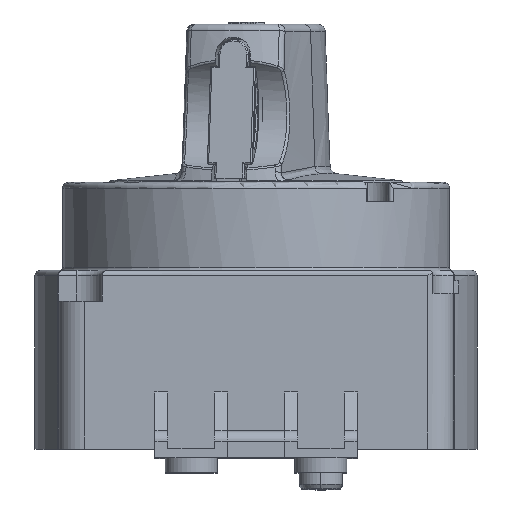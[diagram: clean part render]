
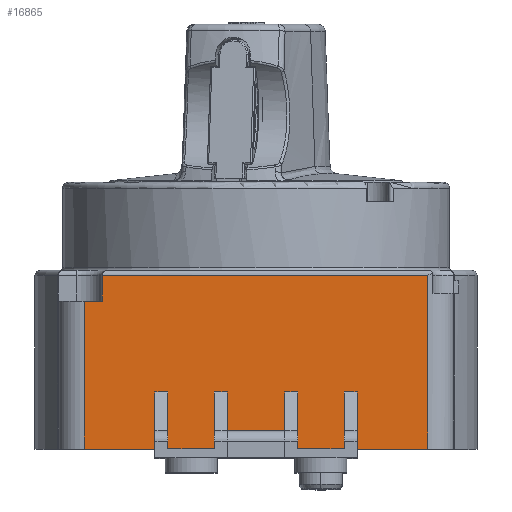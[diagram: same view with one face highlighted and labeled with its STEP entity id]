
A CAD part, top view. The second image highlights one B-rep face of the part: STEP entity #16865.
In plain terms, the highlighted planar face has unit normal (0, 0, 1) as drawn and (0, 0, -1) by its records, which use the part's own axes.
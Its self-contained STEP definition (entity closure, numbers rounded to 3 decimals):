
#4102=DIRECTION('',(0.,1.,0.));
#4103=VECTOR('',#4102,13.6);
#4104=CARTESIAN_POINT('',(4.5,7.,7.4));
#4105=LINE('',#4104,#4103);
#4152=DIRECTION('',(0.,1.,0.));
#4153=VECTOR('',#4152,13.6);
#4154=CARTESIAN_POINT('',(4.5,-45.6,7.4));
#4155=LINE('',#4154,#4153);
#4668=DIRECTION('',(-1.,0.,0.));
#4669=VECTOR('',#4668,28.5);
#4670=CARTESIAN_POINT('',(33.,-45.6,7.4));
#4671=LINE('',#4670,#4669);
#4686=DIRECTION('',(1.,0.,0.));
#4687=VECTOR('',#4686,11.);
#4688=CARTESIAN_POINT('',(4.5,7.,7.4));
#4689=LINE('',#4688,#4687);
#4690=DIRECTION('',(0.,-1.,0.));
#4691=VECTOR('',#4690,2.5);
#4692=CARTESIAN_POINT('',(15.5,7.,7.4));
#4693=LINE('',#4692,#4691);
#4694=DIRECTION('',(1.,0.,0.));
#4695=VECTOR('',#4694,11.);
#4696=CARTESIAN_POINT('',(4.5,4.5,7.4));
#4697=LINE('',#4696,#4695);
#4698=DIRECTION('',(0.,1.,0.));
#4699=VECTOR('',#4698,9.);
#4700=CARTESIAN_POINT('',(4.5,-4.5,7.4));
#4701=LINE('',#4700,#4699);
#4702=DIRECTION('',(-1.,0.,0.));
#4703=VECTOR('',#4702,11.);
#4704=CARTESIAN_POINT('',(15.5,-4.5,7.4));
#4705=LINE('',#4704,#4703);
#4706=DIRECTION('',(0.,-1.,0.));
#4707=VECTOR('',#4706,2.5);
#4708=CARTESIAN_POINT('',(15.5,-4.5,7.4));
#4709=LINE('',#4708,#4707);
#4710=DIRECTION('',(1.,0.,0.));
#4711=VECTOR('',#4710,7.5);
#4712=CARTESIAN_POINT('',(8.,-7.,7.4));
#4713=LINE('',#4712,#4711);
#4714=DIRECTION('',(0.,1.,0.));
#4715=VECTOR('',#4714,11.);
#4716=CARTESIAN_POINT('',(8.,-18.,7.4));
#4717=LINE('',#4716,#4715);
#4718=DIRECTION('',(1.,0.,0.));
#4719=VECTOR('',#4718,7.5);
#4720=CARTESIAN_POINT('',(8.,-18.,7.4));
#4721=LINE('',#4720,#4719);
#4722=DIRECTION('',(0.,1.,0.));
#4723=VECTOR('',#4722,2.5);
#4724=CARTESIAN_POINT('',(15.5,-20.5,7.4));
#4725=LINE('',#4724,#4723);
#4726=DIRECTION('',(1.,0.,0.));
#4727=VECTOR('',#4726,11.);
#4728=CARTESIAN_POINT('',(4.5,-20.5,7.4));
#4729=LINE('',#4728,#4727);
#4730=DIRECTION('',(0.,1.,0.));
#4731=VECTOR('',#4730,9.);
#4732=CARTESIAN_POINT('',(4.5,-29.5,7.4));
#4733=LINE('',#4732,#4731);
#4734=DIRECTION('',(-1.,0.,0.));
#4735=VECTOR('',#4734,11.);
#4736=CARTESIAN_POINT('',(15.5,-29.5,7.4));
#4737=LINE('',#4736,#4735);
#4738=DIRECTION('',(0.,1.,0.));
#4739=VECTOR('',#4738,2.5);
#4740=CARTESIAN_POINT('',(15.5,-32.,7.4));
#4741=LINE('',#4740,#4739);
#4742=DIRECTION('',(1.,0.,0.));
#4743=VECTOR('',#4742,11.);
#4744=CARTESIAN_POINT('',(4.5,-32.,7.4));
#4745=LINE('',#4744,#4743);
#4746=DIRECTION('',(0.,1.,0.));
#4747=VECTOR('',#4746,3.5);
#4748=CARTESIAN_POINT('',(33.,-45.6,7.4));
#4749=LINE('',#4748,#4747);
#4750=DIRECTION('',(-1.,0.,0.));
#4751=VECTOR('',#4750,5.);
#4752=CARTESIAN_POINT('',(38.,-42.1,7.4));
#4753=LINE('',#4752,#4751);
#4765=DIRECTION('',(0.,1.,0.));
#4766=VECTOR('',#4765,62.7);
#4767=CARTESIAN_POINT('',(38.,-42.1,7.4));
#4768=LINE('',#4767,#4766);
#7333=DIRECTION('',(-1.,0.,0.));
#7334=VECTOR('',#7333,33.5);
#7335=CARTESIAN_POINT('',(38.,20.6,7.4));
#7336=LINE('',#7335,#7334);
#8237=CARTESIAN_POINT('',(4.5,7.,7.4));
#8238=CARTESIAN_POINT('',(15.5,7.,7.4));
#8239=VERTEX_POINT('',#8237);
#8240=VERTEX_POINT('',#8238);
#8241=CARTESIAN_POINT('',(8.,-7.,7.4));
#8242=CARTESIAN_POINT('',(15.5,-7.,7.4));
#8243=VERTEX_POINT('',#8241);
#8244=VERTEX_POINT('',#8242);
#8253=CARTESIAN_POINT('',(4.5,-32.,7.4));
#8254=CARTESIAN_POINT('',(15.5,-32.,7.4));
#8255=VERTEX_POINT('',#8253);
#8256=VERTEX_POINT('',#8254);
#8257=CARTESIAN_POINT('',(8.,-18.,7.4));
#8258=CARTESIAN_POINT('',(15.5,-18.,7.4));
#8259=VERTEX_POINT('',#8257);
#8260=VERTEX_POINT('',#8258);
#8269=CARTESIAN_POINT('',(4.5,-4.5,7.4));
#8270=CARTESIAN_POINT('',(4.5,4.5,7.4));
#8271=VERTEX_POINT('',#8269);
#8272=VERTEX_POINT('',#8270);
#8282=CARTESIAN_POINT('',(15.5,-4.5,7.4));
#8284=VERTEX_POINT('',#8282);
#8286=CARTESIAN_POINT('',(15.5,4.5,7.4));
#8288=VERTEX_POINT('',#8286);
#8289=CARTESIAN_POINT('',(4.5,-29.5,7.4));
#8290=CARTESIAN_POINT('',(4.5,-20.5,7.4));
#8291=VERTEX_POINT('',#8289);
#8292=VERTEX_POINT('',#8290);
#8301=CARTESIAN_POINT('',(15.5,-29.5,7.4));
#8303=VERTEX_POINT('',#8301);
#8305=CARTESIAN_POINT('',(15.5,-20.5,7.4));
#8307=VERTEX_POINT('',#8305);
#8847=CARTESIAN_POINT('',(33.,-42.1,7.4));
#8848=VERTEX_POINT('',#8847);
#8965=CARTESIAN_POINT('',(38.,-42.1,7.4));
#8966=VERTEX_POINT('',#8965);
#9005=CARTESIAN_POINT('',(38.,20.6,7.4));
#9006=VERTEX_POINT('',#9005);
#9060=CARTESIAN_POINT('',(4.5,20.6,7.4));
#9061=VERTEX_POINT('',#9060);
#9064=CARTESIAN_POINT('',(33.,-45.6,7.4));
#9065=CARTESIAN_POINT('',(4.5,-45.6,7.4));
#9066=VERTEX_POINT('',#9064);
#9067=VERTEX_POINT('',#9065);
#16818=CARTESIAN_POINT('',(4.5,-50.6,7.4));
#16819=DIRECTION('',(0.,0.,-1.));
#16820=DIRECTION('',(0.,1.,0.));
#16821=AXIS2_PLACEMENT_3D('',#16818,#16819,#16820);
#16822=PLANE('',#16821);
#16824=ORIENTED_EDGE('',*,*,#16823,.T.);
#16826=ORIENTED_EDGE('',*,*,#16825,.T.);
#16827=ORIENTED_EDGE('',*,*,#15975,.F.);
#16829=ORIENTED_EDGE('',*,*,#16828,.T.);
#16831=ORIENTED_EDGE('',*,*,#16830,.T.);
#16833=ORIENTED_EDGE('',*,*,#16832,.F.);
#16835=ORIENTED_EDGE('',*,*,#16834,.F.);
#16837=ORIENTED_EDGE('',*,*,#16836,.F.);
#16839=ORIENTED_EDGE('',*,*,#16838,.T.);
#16841=ORIENTED_EDGE('',*,*,#16840,.F.);
#16843=ORIENTED_EDGE('',*,*,#16842,.F.);
#16845=ORIENTED_EDGE('',*,*,#16844,.T.);
#16847=ORIENTED_EDGE('',*,*,#16846,.F.);
#16849=ORIENTED_EDGE('',*,*,#16848,.F.);
#16851=ORIENTED_EDGE('',*,*,#16850,.F.);
#16853=ORIENTED_EDGE('',*,*,#16852,.F.);
#16855=ORIENTED_EDGE('',*,*,#16854,.F.);
#16857=ORIENTED_EDGE('',*,*,#16856,.F.);
#16858=ORIENTED_EDGE('',*,*,#16023,.F.);
#16859=ORIENTED_EDGE('',*,*,#16809,.F.);
#16860=ORIENTED_EDGE('',*,*,#16752,.T.);
#16862=ORIENTED_EDGE('',*,*,#16861,.F.);
#16863=EDGE_LOOP('',(#16824,#16826,#16827,#16829,#16831,#16833,#16835,#16837,
#16839,#16841,#16843,#16845,#16847,#16849,#16851,#16853,#16855,#16857,#16858,
#16859,#16860,#16862));
#16864=FACE_OUTER_BOUND('',#16863,.F.);
#16865=ADVANCED_FACE('',(#16864),#16822,.T.);
#15975=EDGE_CURVE('',#8239,#9061,#4105,.T.);
#16023=EDGE_CURVE('',#9067,#8255,#4155,.T.);
#16752=EDGE_CURVE('',#9066,#8848,#4749,.T.);
#16809=EDGE_CURVE('',#9066,#9067,#4671,.T.);
#16823=EDGE_CURVE('',#8966,#9006,#4768,.T.);
#16825=EDGE_CURVE('',#9006,#9061,#7336,.T.);
#16828=EDGE_CURVE('',#8239,#8240,#4689,.T.);
#16830=EDGE_CURVE('',#8240,#8288,#4693,.T.);
#16832=EDGE_CURVE('',#8272,#8288,#4697,.T.);
#16834=EDGE_CURVE('',#8271,#8272,#4701,.T.);
#16836=EDGE_CURVE('',#8284,#8271,#4705,.T.);
#16838=EDGE_CURVE('',#8284,#8244,#4709,.T.);
#16840=EDGE_CURVE('',#8243,#8244,#4713,.T.);
#16842=EDGE_CURVE('',#8259,#8243,#4717,.T.);
#16844=EDGE_CURVE('',#8259,#8260,#4721,.T.);
#16846=EDGE_CURVE('',#8307,#8260,#4725,.T.);
#16848=EDGE_CURVE('',#8292,#8307,#4729,.T.);
#16850=EDGE_CURVE('',#8291,#8292,#4733,.T.);
#16852=EDGE_CURVE('',#8303,#8291,#4737,.T.);
#16854=EDGE_CURVE('',#8256,#8303,#4741,.T.);
#16856=EDGE_CURVE('',#8255,#8256,#4745,.T.);
#16861=EDGE_CURVE('',#8966,#8848,#4753,.T.);
